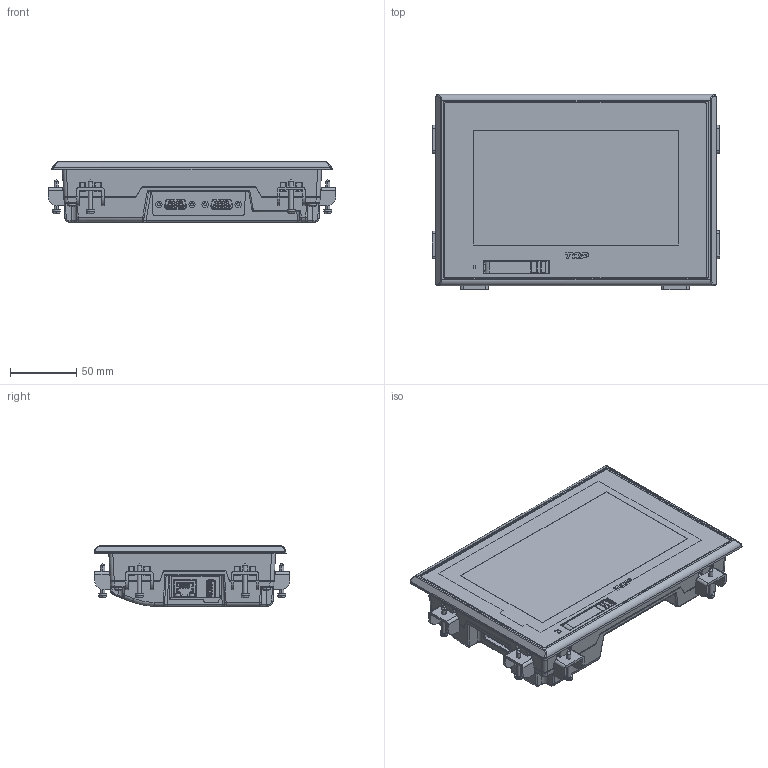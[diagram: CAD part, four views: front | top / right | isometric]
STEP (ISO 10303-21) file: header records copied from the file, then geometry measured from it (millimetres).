
FILE_DESCRIPTION((''),'2;1');
FILE_NAME('3D-TOPRW0700WD','2017-01-17T',('bckim'),(''),'CREO PARAMETRIC BY PTC INC, 2016260','CREO PARAMETRIC BY PTC INC, 2016260','');
FILE_SCHEMA(('CONFIG_CONTROL_DESIGN'));
Products named in the file (1): 3D-TOPRW0700WD
Bounding box: 217.44 x 147.73 x 45.66 mm (x, y, z)
Volume: 1037802.2 mm3; surface area: 175369.3 mm2
Topology: 2 solids, 10 shells, 3048 faces, 8710 edges, 5731 vertices
Faces by surface type: plane 2118, cylinder 562, cone 123, torus 102, extrusion 74, bspline 57, sphere 12
Entity records: 104623 total; most frequent: CARTESIAN_POINT 25526, ORIENTED_EDGE 17404, DIRECTION 14979, EDGE_CURVE 8702, VECTOR 6573, LINE 6499, VERTEX_POINT 5731, AXIS2_PLACEMENT_3D 4203
